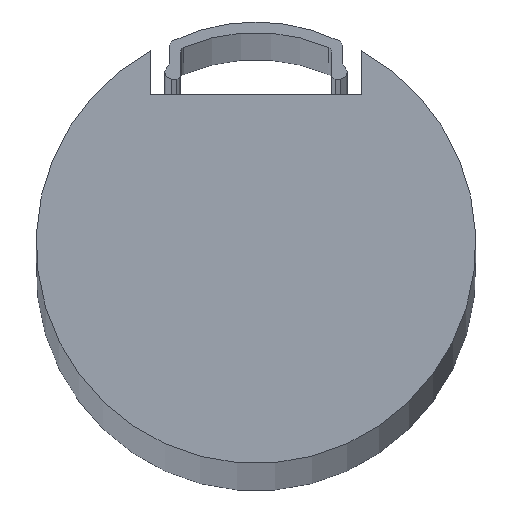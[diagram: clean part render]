
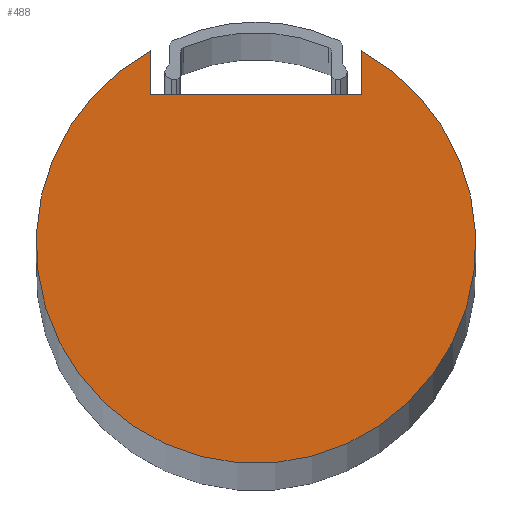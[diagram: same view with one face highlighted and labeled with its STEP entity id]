
A CAD part, top view. The second image highlights one B-rep face of the part: STEP entity #488.
In plain terms, the highlighted planar face has unit normal (0, 0, 1).
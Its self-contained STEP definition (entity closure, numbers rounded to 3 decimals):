
#53=FACE_OUTER_BOUND('',#79,.T.);
#79=EDGE_LOOP('',(#424,#425,#426,#427));
#105=CIRCLE('',#557,12.5);
#141=LINE('',#836,#181);
#143=LINE('',#840,#183);
#145=LINE('',#843,#185);
#181=VECTOR('',#697,10.);
#183=VECTOR('',#701,10.);
#185=VECTOR('',#705,10.);
#226=VERTEX_POINT('',#829);
#227=VERTEX_POINT('',#831);
#228=VERTEX_POINT('',#835);
#229=VERTEX_POINT('',#839);
#289=EDGE_CURVE('',#227,#226,#105,.T.);
#291=EDGE_CURVE('',#228,#227,#141,.T.);
#293=EDGE_CURVE('',#229,#228,#143,.T.);
#295=EDGE_CURVE('',#226,#229,#145,.T.);
#424=ORIENTED_EDGE('',*,*,#295,.T.);
#425=ORIENTED_EDGE('',*,*,#293,.T.);
#426=ORIENTED_EDGE('',*,*,#291,.T.);
#427=ORIENTED_EDGE('',*,*,#289,.T.);
#440=PLANE('',#561);
#488=ADVANCED_FACE('',(#53),#440,.T.);
#557=AXIS2_PLACEMENT_3D('',#832,#692,#693);
#561=AXIS2_PLACEMENT_3D('',#844,#706,#707);
#692=DIRECTION('center_axis',(0.,0.,1.));
#693=DIRECTION('ref_axis',(-0.48,0.877,0.));
#697=DIRECTION('',(0.,1.,0.));
#701=DIRECTION('',(-1.,0.,0.));
#705=DIRECTION('',(0.,-1.,0.));
#706=DIRECTION('center_axis',(0.,0.,1.));
#707=DIRECTION('ref_axis',(1.,0.,0.));
#829=CARTESIAN_POINT('',(6.,10.966,445.));
#831=CARTESIAN_POINT('',(-6.,10.966,445.));
#832=CARTESIAN_POINT('Origin',(0.,0.,445.));
#835=CARTESIAN_POINT('',(-6.,8.466,445.));
#836=CARTESIAN_POINT('',(-6.,8.466,445.));
#839=CARTESIAN_POINT('',(6.,8.466,445.));
#840=CARTESIAN_POINT('',(6.,8.466,445.));
#843=CARTESIAN_POINT('',(6.,10.966,445.));
#844=CARTESIAN_POINT('Origin',(0.,-0.767,445.));
